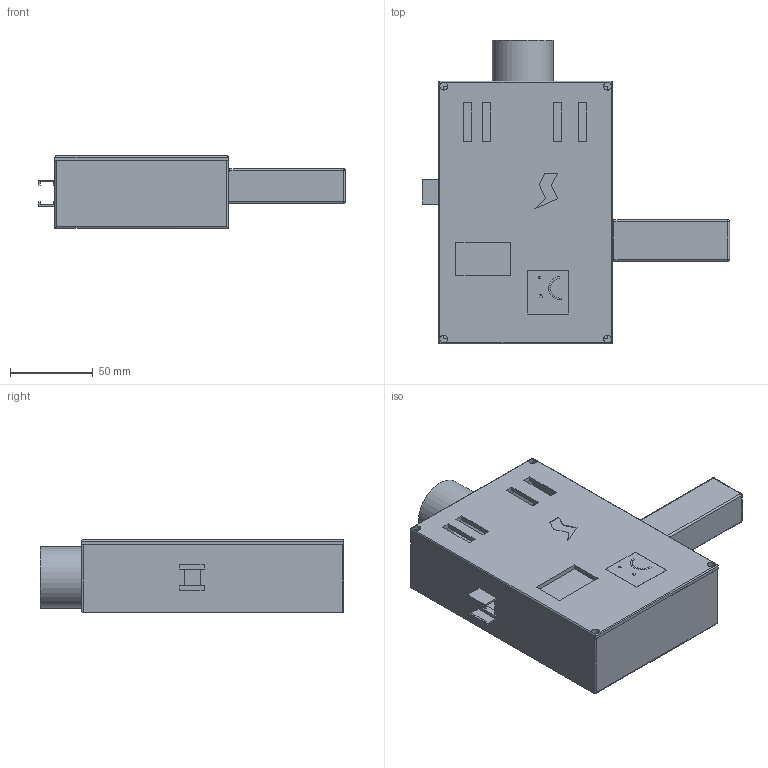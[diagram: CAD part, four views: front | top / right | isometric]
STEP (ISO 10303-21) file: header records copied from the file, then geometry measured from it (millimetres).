
FILE_DESCRIPTION(/* description */ ('STEP AP242 Edition 2','CAx-IF Rec.Pracs.---Representation and Presentation of Product Manufacturing Information (PMI)---4.0---2014-10-13','CAx-IF Rec.Pracs.---3D Tessellated Geometry---0.4---2014-09-14','2;1','CAx-IF Rec.Pracs.---User Defined Attributes---1.5---2016-08-15'),/* implementation_level */ '2;1');
FILE_NAME(/* name */ 'Part Studio 1',/* time_stamp */ '2026-05-26T19:17:35Z',/* author */ (''),/* organization */ (''),/* preprocessor_version */ 'ST-DEVELOPER v20',/* originating_system */ 'ONSHAPE BY PTC INC, 1.215',/* authorisation */ ' ');
FILE_SCHEMA (('AP242_MANAGED_MODEL_BASED_3D_ENGINEERING_MIM_LF { 1 0 10303 442 3 1 4 }'));
Length unit declared in the file: metre
Products named in the file (2): Part 2; Part 1
Bounding box: 186 x 184 x 44 mm (x, y, z)
Volume: 143933.2 mm3; surface area: 124071.6 mm2
Topology: 2 solids, 2 shells, 148 faces, 399 edges, 256 vertices
Faces by surface type: plane 114, cylinder 28, sphere 4, torus 2
Full cylindrical faces by diameter (mm): 4.8 x4, 9.1 x1, 35 x1, 37 x1
Entity records: 4574 total; most frequent: CARTESIAN_POINT 818, ORIENTED_EDGE 768, DIRECTION 728, EDGE_CURVE 384, LINE 320, VECTOR 320, VERTEX_POINT 252, AXIS2_PLACEMENT_3D 204
